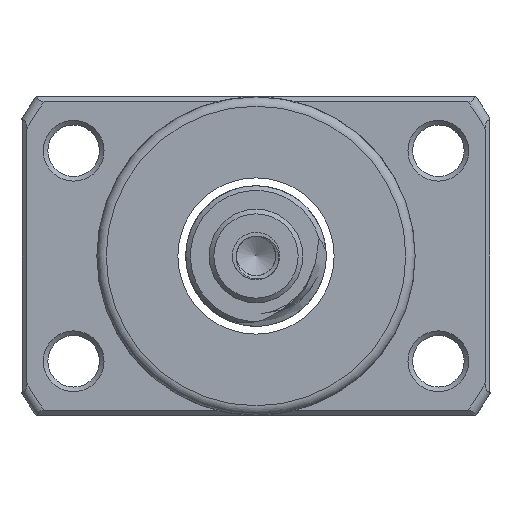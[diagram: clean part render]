
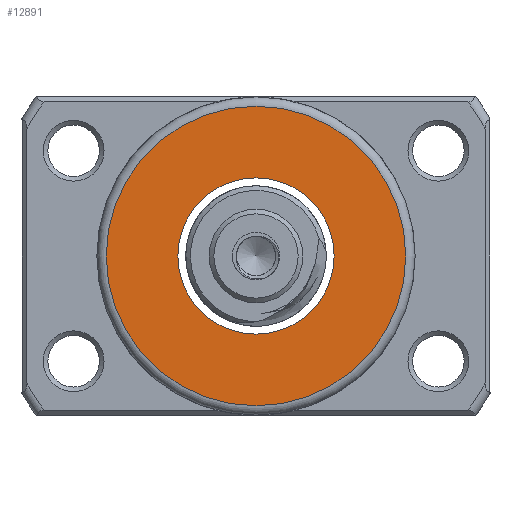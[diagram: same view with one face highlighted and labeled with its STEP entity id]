
A CAD part, left-side view. The second image highlights one B-rep face of the part: STEP entity #12891.
In plain terms, the highlighted planar face has unit normal (-1, 0, 0).
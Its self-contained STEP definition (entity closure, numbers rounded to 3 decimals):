
#411 = FACE_OUTER_BOUND ( 'NONE', #11430, .T. ) ;
#630 = AXIS2_PLACEMENT_3D ( 'NONE', #12938, #3265, #10814 ) ;
#875 = DIRECTION ( 'NONE',  ( -1., 0., 0. ) ) ;
#1921 = CARTESIAN_POINT ( 'NONE',  ( -53.324, 0., 16. ) ) ;
#2212 = AXIS2_PLACEMENT_3D ( 'NONE', #5852, #8021, #11064 ) ;
#2364 = EDGE_CURVE ( 'NONE', #7291, #7291, #12235, .T. ) ;
#3265 = DIRECTION ( 'NONE',  ( -1., 0., 0. ) ) ;
#3896 = AXIS2_PLACEMENT_3D ( 'NONE', #11952, #875, #10537 ) ;
#4651 = PLANE ( 'NONE',  #2212 ) ;
#5852 = CARTESIAN_POINT ( 'NONE',  ( -53.324, 8.35, 0. ) ) ;
#5922 = FACE_BOUND ( 'NONE', #11988, .T. ) ;
#6757 = ORIENTED_EDGE ( 'NONE', *, *, #2364, .T. ) ;
#7291 = VERTEX_POINT ( 'NONE', #1921 ) ;
#8021 = DIRECTION ( 'NONE',  ( -1., 0., 0. ) ) ;
#9179 = CARTESIAN_POINT ( 'NONE',  ( -53.324, 0., 8.35 ) ) ;
#9529 = ORIENTED_EDGE ( 'NONE', *, *, #11965, .F. ) ;
#10537 = DIRECTION ( 'NONE',  ( 0., 0., 1. ) ) ;
#10814 = DIRECTION ( 'NONE',  ( 0., 0., 1. ) ) ;
#11064 = DIRECTION ( 'NONE',  ( 0., 0., 1. ) ) ;
#11430 = EDGE_LOOP ( 'NONE', ( #6757 ) ) ;
#11952 = CARTESIAN_POINT ( 'NONE',  ( -53.324, 0., 0. ) ) ;
#11965 = EDGE_CURVE ( 'NONE', #13216, #13216, #12818, .T. ) ;
#11988 = EDGE_LOOP ( 'NONE', ( #9529 ) ) ;
#12235 = CIRCLE ( 'NONE', #3896, 16. ) ;
#12818 = CIRCLE ( 'NONE', #630, 8.35 ) ;
#12891 = ADVANCED_FACE ( 'NONE', ( #411, #5922 ), #4651, .T. ) ;
#12938 = CARTESIAN_POINT ( 'NONE',  ( -53.324, 0., 0. ) ) ;
#13216 = VERTEX_POINT ( 'NONE', #9179 ) ;
